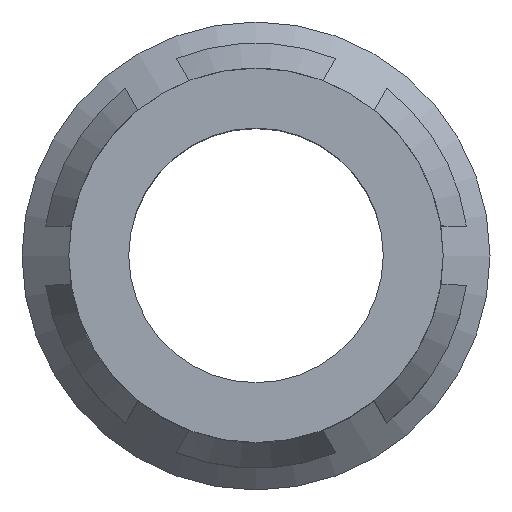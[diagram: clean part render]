
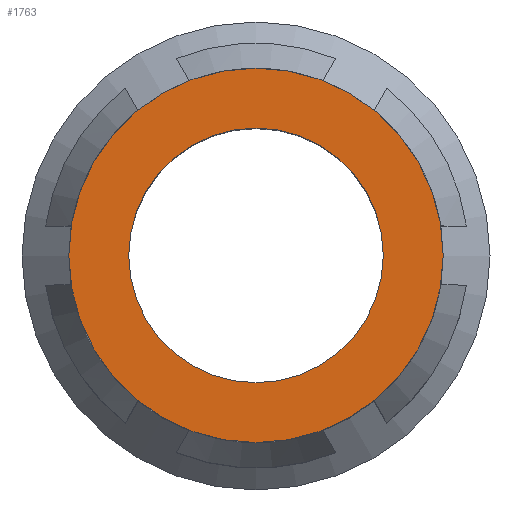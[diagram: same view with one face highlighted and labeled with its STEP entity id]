
A CAD part, top view. The second image highlights one B-rep face of the part: STEP entity #1763.
In plain terms, the highlighted planar face has unit normal (0, 0, 1).
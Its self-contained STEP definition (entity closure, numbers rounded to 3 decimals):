
#129 = CARTESIAN_POINT ( 'NONE',  ( 7.236, 0., -13.675 ) ) ;
#191 = FACE_OUTER_BOUND ( 'NONE', #1276, .T. ) ;
#239 = EDGE_CURVE ( 'NONE', #1289, #1289, #1241, .T. ) ;
#465 = CARTESIAN_POINT ( 'NONE',  ( 8.963, 0., -13.675 ) ) ;
#558 = AXIS2_PLACEMENT_3D ( 'NONE', #465, #1665, #1148 ) ;
#646 = CARTESIAN_POINT ( 'NONE',  ( 8.963, 0., -13.675 ) ) ;
#679 = CIRCLE ( 'NONE', #558, 2.54 ) ;
#681 = CARTESIAN_POINT ( 'NONE',  ( 6.423, 0., -13.675 ) ) ;
#769 = FACE_BOUND ( 'NONE', #771, .T. ) ;
#771 = EDGE_LOOP ( 'NONE', ( #2197 ) ) ;
#1055 = PLANE ( 'NONE',  #2060 ) ;
#1148 = DIRECTION ( 'NONE',  ( -1., 0., 0. ) ) ;
#1227 = DIRECTION ( 'NONE',  ( -1., 0., 0. ) ) ;
#1237 = VERTEX_POINT ( 'NONE', #681 ) ;
#1241 = CIRCLE ( 'NONE', #1752, 1.727 ) ;
#1276 = EDGE_LOOP ( 'NONE', ( #2080 ) ) ;
#1289 = VERTEX_POINT ( 'NONE', #129 ) ;
#1418 = EDGE_CURVE ( 'NONE', #1237, #1237, #679, .T. ) ;
#1664 = DIRECTION ( 'NONE',  ( 0., 0., -1. ) ) ;
#1665 = DIRECTION ( 'NONE',  ( 0., 0., -1. ) ) ;
#1752 = AXIS2_PLACEMENT_3D ( 'NONE', #646, #1664, #1995 ) ;
#1763 = ADVANCED_FACE ( 'NONE', ( #769, #191 ), #1055, .F. ) ;
#1995 = DIRECTION ( 'NONE',  ( -1., 0., 0. ) ) ;
#2055 = CARTESIAN_POINT ( 'NONE',  ( 11.503, 0., -13.675 ) ) ;
#2060 = AXIS2_PLACEMENT_3D ( 'NONE', #2055, #2226, #1227 ) ;
#2080 = ORIENTED_EDGE ( 'NONE', *, *, #1418, .F. ) ;
#2197 = ORIENTED_EDGE ( 'NONE', *, *, #239, .T. ) ;
#2226 = DIRECTION ( 'NONE',  ( 0., 0., -1. ) ) ;
